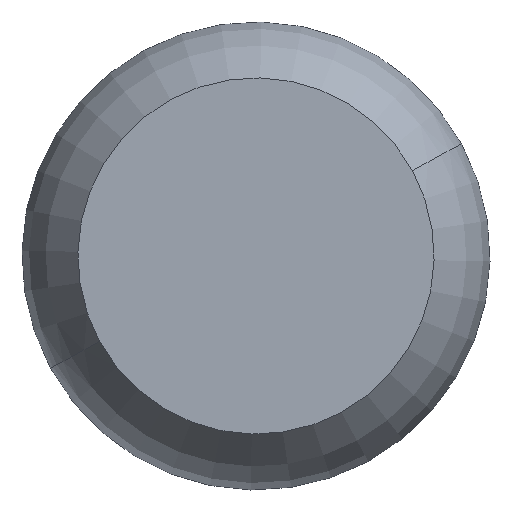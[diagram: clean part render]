
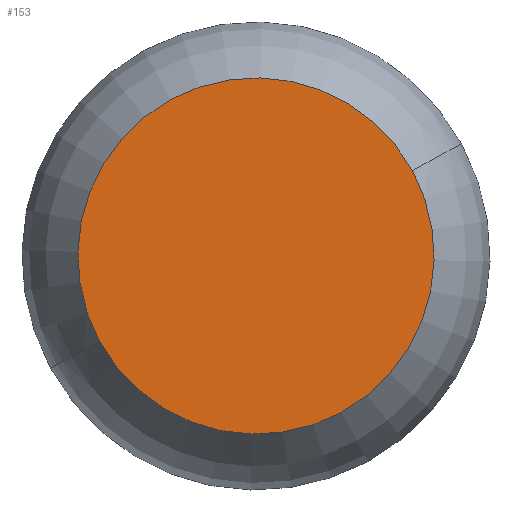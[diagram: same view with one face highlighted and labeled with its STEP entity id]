
A CAD part, front view. The second image highlights one B-rep face of the part: STEP entity #153.
In plain terms, the highlighted planar face has unit normal (0, -1, 0).
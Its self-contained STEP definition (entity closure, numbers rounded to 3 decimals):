
#66=CARTESIAN_POINT('Axis2P3D Location',(0.,0.,0.)) ;
#70=CARTESIAN_POINT('Vertex',(90.391,0.,49.381)) ;
#72=CARTESIAN_POINT('Vertex',(-90.391,0.,-49.381)) ;
#127=CARTESIAN_POINT('Axis2P3D Location',(0.,0.,0.)) ;
#144=CARTESIAN_POINT('Axis2P3D Location',(0.,0.,0.)) ;
#67=DIRECTION('Axis2P3D Direction',(0.,-1.,0.)) ;
#128=DIRECTION('Axis2P3D Direction',(0.,-1.,0.)) ;
#145=DIRECTION('Axis2P3D Direction',(0.,-1.,0.)) ;
#146=DIRECTION('Axis2P3D XDirection',(1.,0.,0.)) ;
#68=AXIS2_PLACEMENT_3D('Circle Axis2P3D',#66,#67,$) ;
#129=AXIS2_PLACEMENT_3D('Circle Axis2P3D',#127,#128,$) ;
#147=AXIS2_PLACEMENT_3D('Plane Axis2P3D',#144,#145,#146) ;
#150=ORIENTED_EDGE('',*,*,#74,.T.) ;
#151=ORIENTED_EDGE('',*,*,#131,.T.) ;
#153=ADVANCED_FACE('PartBody',(#152),#148,.T.) ;
#69=CIRCLE('generated circle',#68,103.) ;
#130=CIRCLE('generated circle',#129,103.) ;
#74=EDGE_CURVE('',#71,#73,#69,.T.) ;
#131=EDGE_CURVE('',#73,#71,#130,.T.) ;
#149=EDGE_LOOP('',(#150,#151)) ;
#152=FACE_OUTER_BOUND('',#149,.T.) ;
#148=PLANE('',#147) ;
#71=VERTEX_POINT('',#70) ;
#73=VERTEX_POINT('',#72) ;
